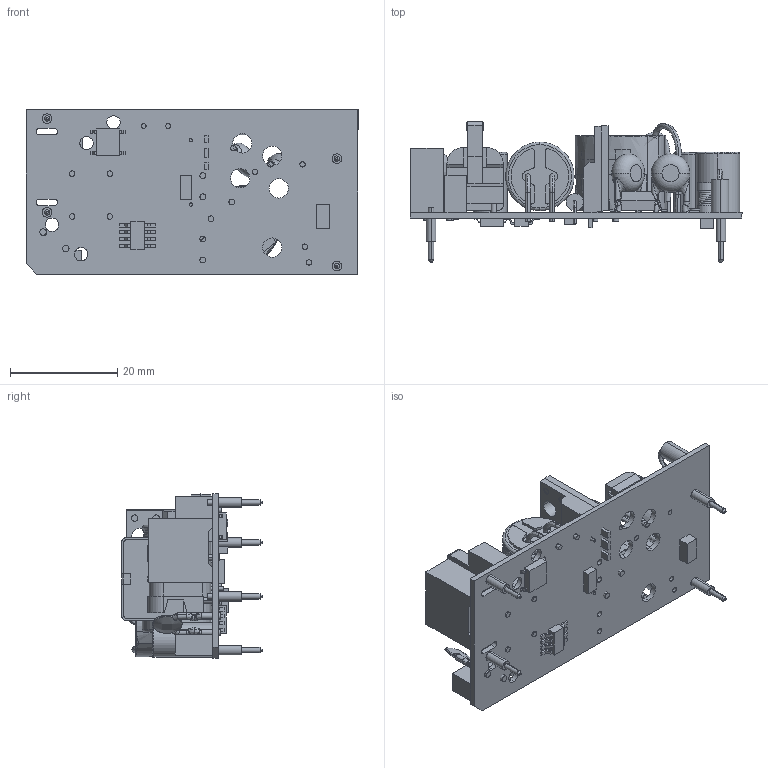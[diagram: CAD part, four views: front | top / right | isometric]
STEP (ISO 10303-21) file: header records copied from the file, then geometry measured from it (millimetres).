
FILE_DESCRIPTION (( 'STEP AP214' ), '1' );
FILE_NAME ('EML15-P.STEP', '2013-09-04T18:04:59', ( '' ), ( '' ), 'SwSTEP 2.0', 'SolidWorks 2013', '' );
FILE_SCHEMA (( 'AUTOMOTIVE_DESIGN' ));
Length unit declared in the file: inch
Products named in the file (17): EML15 IC 10.2x16.2mm; y-cap; M-B010-01-P; EML15 transformer; EML15-P; EML15 CORE; CX(7_2X12); bulk cap; bulk cap 5; bulk cap 4; bulk cap 3; bulk cap 2; bulk cap 1; EML15 opto; EML15 OPEN SERIES-1020218_安因; EML15 magnetic; EML15 inductor
Assembly tree (20 placements, depth 3):
  EML15-P
    EML15 transformer
    M-B010-01-P  x4
    y-cap
    EML15 IC 10.2x16.2mm
    CX(7_2X12)  x2
    EML15 inductor
    EML15 magnetic
    EML15 OPEN SERIES-1020218_安因
    EML15 opto
    bulk cap
      bulk cap 1
      bulk cap 2
      bulk cap 3
      bulk cap 4
      bulk cap 5
    EML15 CORE
Bounding box: 62 x 26.2 x 30.73 mm (x, y, z)
Volume: 12215.6 mm3; surface area: 12754.4 mm2
Topology: 19 solids, 21 shells, 913 faces, 2500 edges, 1640 vertices
Faces by surface type: plane 515, cylinder 258, bspline 104, torus 28, cone 8
Entity records: 51333 total; most frequent: CARTESIAN_POINT 17910, ORIENTED_EDGE 4738, DIRECTION 4137, EDGE_CURVE 2369, VERTEX_POINT 1560, VECTOR 1457, LINE 1457, AXIS2_PLACEMENT_3D 1340
